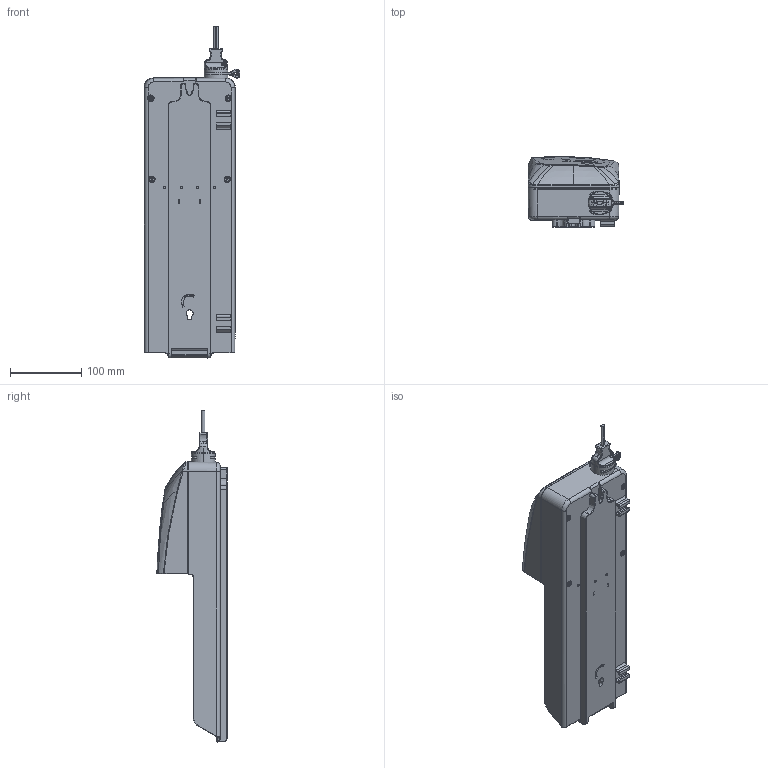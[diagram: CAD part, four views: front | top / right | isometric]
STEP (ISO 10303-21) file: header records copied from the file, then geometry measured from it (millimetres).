
FILE_DESCRIPTION((''),'2;1');
FILE_NAME('CHP1_XUANRAN','2021-02-24T',('USER'),(''),'PRO/ENGINEER BY PARAMETRIC TECHNOLOGY CORPORATION, 2016240','PRO/ENGINEER BY PARAMETRIC TECHNOLOGY CORPORATION, 2016240','');
FILE_SCHEMA(('CONFIG_CONTROL_DESIGN'));
Products named in the file (1): CHP1_XUANRAN
Bounding box: 134.8 x 98.89 x 466.53 mm (x, y, z)
Surface area: 330575.6 mm2 (no closed solid volume)
Topology: 0 solids, 14 shells, 2680 faces, 7198 edges, 4636 vertices
Faces by surface type: plane 950, cylinder 821, cone 356, bspline 347, torus 163, sphere 41, revolution 2
Entity records: 111291 total; most frequent: CARTESIAN_POINT 48409, ORIENTED_EDGE 14350, DIRECTION 11300, EDGE_CURVE 7175, VERTEX_POINT 4635, AXIS2_PLACEMENT_3D 4027, VECTOR 3244, LINE 3244
